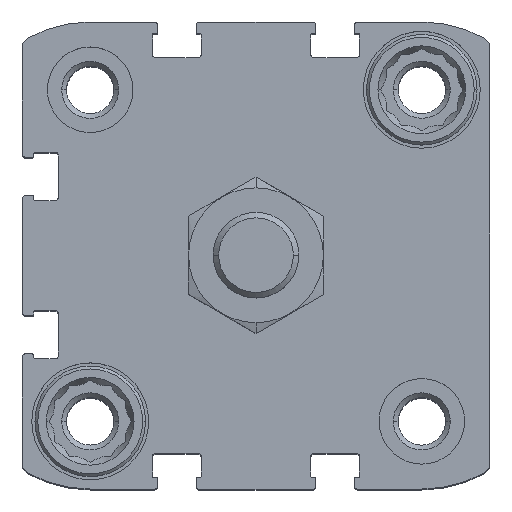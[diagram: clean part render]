
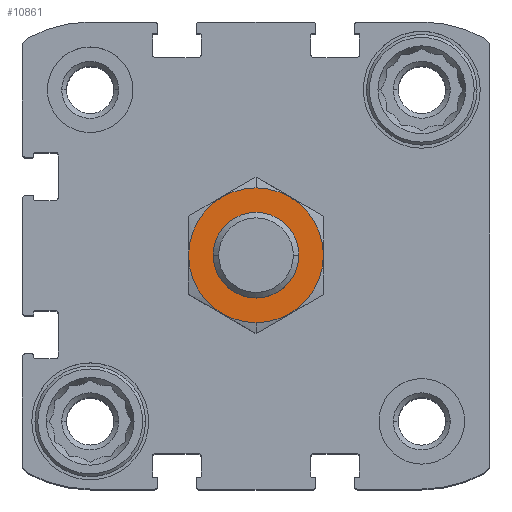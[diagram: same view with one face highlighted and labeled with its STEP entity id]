
A CAD part, top view. The second image highlights one B-rep face of the part: STEP entity #10861.
In plain terms, the highlighted planar face has unit normal (0, 0, 1).
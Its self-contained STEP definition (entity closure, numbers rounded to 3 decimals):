
#115 = DIRECTION ( 'NONE',  ( 0., 1., 0. ) ) ;
#137 = AXIS2_PLACEMENT_3D ( 'NONE', #11116, #1809, #4601 ) ;
#1537 = ORIENTED_EDGE ( 'NONE', *, *, #16922, .T. ) ;
#1592 = CARTESIAN_POINT ( 'NONE',  ( 0., 0., 19.5 ) ) ;
#1809 = DIRECTION ( 'NONE',  ( 0., 0., -1. ) ) ;
#2166 = CIRCLE ( 'NONE', #8264, 6. ) ;
#2186 = CARTESIAN_POINT ( 'NONE',  ( 0., 0., 19.5 ) ) ;
#2496 = CIRCLE ( 'NONE', #12493, 9.45 ) ;
#2883 = EDGE_CURVE ( 'NONE', #15395, #11946, #2496, .T. ) ;
#2993 = CIRCLE ( 'NONE', #4106, 9.45 ) ;
#3058 = ORIENTED_EDGE ( 'NONE', *, *, #2883, .F. ) ;
#3771 = CIRCLE ( 'NONE', #137, 6. ) ;
#4106 = AXIS2_PLACEMENT_3D ( 'NONE', #2186, #16442, #6180 ) ;
#4461 = ORIENTED_EDGE ( 'NONE', *, *, #13798, .F. ) ;
#4601 = DIRECTION ( 'NONE',  ( 0., 1., 0. ) ) ;
#4631 = DIRECTION ( 'NONE',  ( 0., 1., 0. ) ) ;
#5851 = CARTESIAN_POINT ( 'NONE',  ( 0., 9.45, 19.5 ) ) ;
#6078 = CARTESIAN_POINT ( 'NONE',  ( 0., 6., 19.5 ) ) ;
#6180 = DIRECTION ( 'NONE',  ( 0., 1., 0. ) ) ;
#6486 = AXIS2_PLACEMENT_3D ( 'NONE', #6655, #12039, #115 ) ;
#6655 = CARTESIAN_POINT ( 'NONE',  ( 0., 0., 19.5 ) ) ;
#7067 = DIRECTION ( 'NONE',  ( 0., 0., -1. ) ) ;
#7249 = FACE_OUTER_BOUND ( 'NONE', #16043, .T. ) ;
#8199 = DIRECTION ( 'NONE',  ( 0., 0., -1. ) ) ;
#8264 = AXIS2_PLACEMENT_3D ( 'NONE', #8542, #7067, #4631 ) ;
#8542 = CARTESIAN_POINT ( 'NONE',  ( 0., 0., 19.5 ) ) ;
#9425 = DIRECTION ( 'NONE',  ( 0., 1., 0. ) ) ;
#9874 = EDGE_LOOP ( 'NONE', ( #13010, #1537 ) ) ;
#9959 = VERTEX_POINT ( 'NONE', #12708 ) ;
#10861 = ADVANCED_FACE ( 'NONE', ( #7249, #14564 ), #14827, .F. ) ;
#11116 = CARTESIAN_POINT ( 'NONE',  ( 0., 0., 19.5 ) ) ;
#11946 = VERTEX_POINT ( 'NONE', #12733 ) ;
#12039 = DIRECTION ( 'NONE',  ( 0., 0., -1. ) ) ;
#12491 = EDGE_CURVE ( 'NONE', #9959, #14769, #3771, .T. ) ;
#12493 = AXIS2_PLACEMENT_3D ( 'NONE', #1592, #8199, #9425 ) ;
#12708 = CARTESIAN_POINT ( 'NONE',  ( 0., -6., 19.5 ) ) ;
#12733 = CARTESIAN_POINT ( 'NONE',  ( 0., -9.45, 19.5 ) ) ;
#13010 = ORIENTED_EDGE ( 'NONE', *, *, #12491, .T. ) ;
#13798 = EDGE_CURVE ( 'NONE', #11946, #15395, #2993, .T. ) ;
#14564 = FACE_BOUND ( 'NONE', #9874, .T. ) ;
#14769 = VERTEX_POINT ( 'NONE', #6078 ) ;
#14827 = PLANE ( 'NONE',  #6486 ) ;
#15395 = VERTEX_POINT ( 'NONE', #5851 ) ;
#16043 = EDGE_LOOP ( 'NONE', ( #3058, #4461 ) ) ;
#16442 = DIRECTION ( 'NONE',  ( 0., 0., -1. ) ) ;
#16922 = EDGE_CURVE ( 'NONE', #14769, #9959, #2166, .T. ) ;
